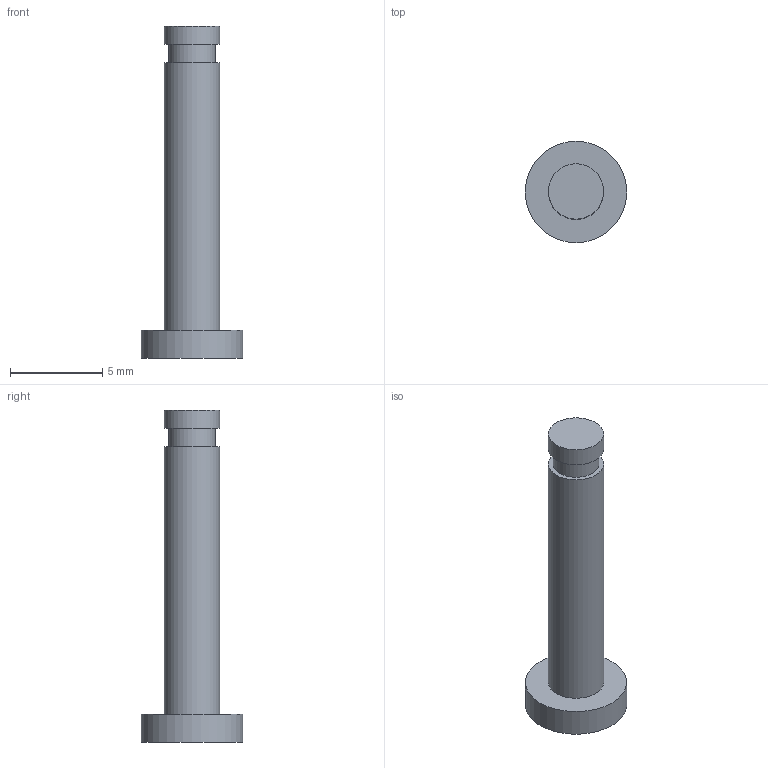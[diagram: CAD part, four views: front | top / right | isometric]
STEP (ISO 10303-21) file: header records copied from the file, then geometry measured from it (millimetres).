
FILE_DESCRIPTION(('Open CASCADE Model'),'2;1');
FILE_NAME('F09-PIN3-L18','2026-11-15T22:32:14',('Author'),( 'Open CASCADE'),'Open CASCADE STEP processor 8.0','build123d', 'Unknown');
FILE_SCHEMA(('AUTOMOTIVE_DESIGN { 1 0 10303 214 1 1 1 1 }'));
Length unit declared in the file: millimetre
Products named in the file (1): F09-PIN3-L18
Bounding box: 5.5 x 5.5 x 18 mm (x, y, z)
Volume: 150.1 mm3; surface area: 231.7 mm2
Topology: 1 solids, 1 shells, 9 faces, 12 edges, 8 vertices
Faces by surface type: plane 5, cylinder 4
Full cylindrical faces by diameter (mm): 2.5 x1, 3 x2, 5.5 x1
Entity records: 360 total; most frequent: DIRECTION 64, CARTESIAN_POINT 54, ORIENTED_EDGE 24, PCURVE 24, DEFINITIONAL_REPRESENTATION 24, LINE 20, VECTOR 20, AXIS2_PLACEMENT_3D 18
